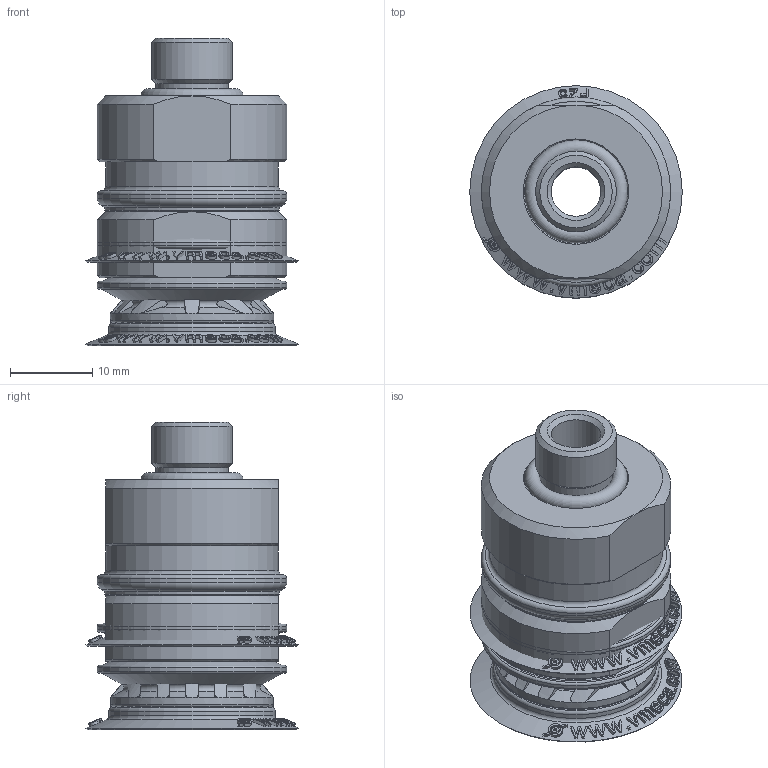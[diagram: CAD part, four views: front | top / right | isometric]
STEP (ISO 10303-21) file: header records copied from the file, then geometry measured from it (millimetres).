
FILE_DESCRIPTION( ( 'Unknown' ), '1' );
FILE_NAME( 'C:/Documents and Settings/Administrator/官帕 拳搁/Magic Cup (Dim)/B2.5/F TYPE/B2.5-20/B2.5-20-F25-PU-D-F2-18M.stp', 'Unknown', ( 'Unknown' ), ( 'Unknown' ), 'XStep 1.0', 'Unknown', ' ' );
FILE_SCHEMA( ( 'automotive_design' ) );
Length unit declared in the file: millimetre
Products named in the file (8): Assem1; Assem2; Assem3; B2.5-20; 20-18M(DIM); 18M-Oring(DIM); F25; 赤20 STOPPER 
Bounding box: 25.8 x 25.8 x 37.33 mm (x, y, z)
Volume: 19924 mm3; surface area: 25507.5 mm2
Topology: 15 solids, 15 shells, 1518 faces, 3786 edges, 2403 vertices
Faces by surface type: bspline 453, plane 312, cone 291, torus 243, cylinder 219
Full cylindrical faces by diameter (mm): 6 x3, 8.8 x3, 9.8 x6, 11 x3, 11.9 x6, 12.4 x3, 13 x3, 13.4 x6, 14.475 x3, 15 x6, 15.673 x3, 15.7 x3, 16 x3, 17 x3, 17.5 x3, 18 x3, 19.8 x3, 20.2 x3, 21 x3, 21.18 x3, 23 x9
Entity records: 19682 total; most frequent: CARTESIAN_POINT 9259, ORIENTED_EDGE 2328, DIRECTION 1446, EDGE_CURVE 1164, VERTEX_POINT 797, B_SPLINE_CURVE_WITH_KNOTS 746, AXIS2_PLACEMENT_3D 665, EDGE_LOOP 643
